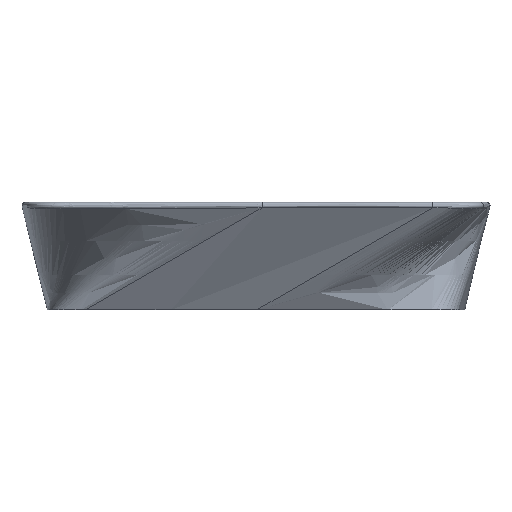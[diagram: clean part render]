
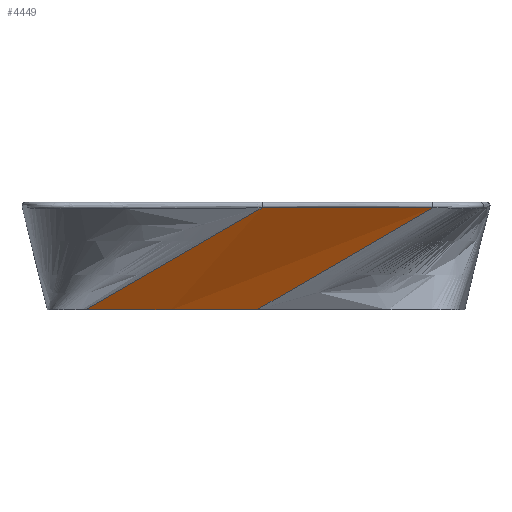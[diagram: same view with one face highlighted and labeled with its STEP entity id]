
A CAD part, front view. The second image highlights one B-rep face of the part: STEP entity #4449.
In plain terms, the highlighted free-form (B-spline) face has degree [3, 1] with [12, 2] control points.
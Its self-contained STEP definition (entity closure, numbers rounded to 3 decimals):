
#42 = CARTESIAN_POINT ( 'NONE',  ( 8.115, -286.954, 61.185 ) ) ;
#158 = CARTESIAN_POINT ( 'NONE',  ( -117.515, -200.091, -76.381 ) ) ;
#178 = B_SPLINE_CURVE_WITH_KNOTS ( 'NONE', 3,
 ( #2433, #10532, #3336, #9664, #4257, #10579, #5153 ),
 .UNSPECIFIED., .F., .F.,
 ( 4, 3, 4 ),
 ( 0., 0., 0. ),
 .UNSPECIFIED. ) ;
#771 = CARTESIAN_POINT ( 'NONE',  ( -225.473, -193.968, -76.381 ) ) ;
#956 = CARTESIAN_POINT ( 'NONE',  ( 8.114, -286.953, 61.184 ) ) ;
#1065 = CARTESIAN_POINT ( 'NONE',  ( -63.884, -201.64, -76.381 ) ) ;
#1185 = CARTESIAN_POINT ( 'NONE',  ( -229.444, -193.881, -76. ) ) ;
#1501 = VERTEX_POINT ( 'NONE', #1776 ) ;
#1776 = CARTESIAN_POINT ( 'NONE',  ( 1.277, -202.414, -76. ) ) ;
#1818 = EDGE_CURVE ( 'NONE', #5347, #2817, #11644, .T. ) ;
#1821 = CARTESIAN_POINT ( 'NONE',  ( 8.115, -286.955, 61.187 ) ) ;
#1825 = VECTOR ( 'NONE', #10907, 1000. ) ;
#1859 = CARTESIAN_POINT ( 'NONE',  ( 8.113, -286.953, 61.184 ) ) ;
#1926 = ORIENTED_EDGE ( 'NONE', *, *, #9376, .T. ) ;
#1974 = CARTESIAN_POINT ( 'NONE',  ( -35.646, -202.108, -76.381 ) ) ;
#2178 = EDGE_CURVE ( 'NONE', #1501, #3606, #2633, .T. ) ;
#2363 = CARTESIAN_POINT ( 'NONE',  ( 8.112, -286.953, 61.183 ) ) ;
#2383 = CARTESIAN_POINT ( 'NONE',  ( 237.894, -280.988, 61.249 ) ) ;
#2433 = CARTESIAN_POINT ( 'NONE',  ( 8.119, -286.955, 61.187 ) ) ;
#2478 = ORIENTED_EDGE ( 'NONE', *, *, #8859, .T. ) ;
#2633 = B_SPLINE_CURVE_WITH_KNOTS ( 'NONE', 3,
 ( #4945, #9459, #4126, #10446 ),
 .UNSPECIFIED., .F., .F.,
 ( 4, 4 ),
 ( 0.003, 0.983 ),
 .UNSPECIFIED. ) ;
#2817 = VERTEX_POINT ( 'NONE', #2363 ) ;
#2848 = CARTESIAN_POINT ( 'NONE',  ( 40.184, -288.471, 63.619 ) ) ;
#2886 = CARTESIAN_POINT ( 'NONE',  ( -5.675, -202.193, -76.381 ) ) ;
#3180 = CARTESIAN_POINT ( 'NONE',  ( 1.277, -202.414, -76. ) ) ;
#3282 = CARTESIAN_POINT ( 'NONE',  ( 199.625, -282.809, 61.247 ) ) ;
#3336 = CARTESIAN_POINT ( 'NONE',  ( 8.119, -286.955, 61.187 ) ) ;
#3419 = CARTESIAN_POINT ( 'NONE',  ( -230.103, -193.623, -76.381 ) ) ;
#3606 = VERTEX_POINT ( 'NONE', #10620 ) ;
#3644 = CARTESIAN_POINT ( 'NONE',  ( 8.115, -286.955, 61.187 ) ) ;
#3646 = VERTEX_POINT ( 'NONE', #4174 ) ;
#3668 = CARTESIAN_POINT ( 'NONE',  ( -108.887, -241.114, -6.381 ) ) ;
#3760 = CARTESIAN_POINT ( 'NONE',  ( 54.206, -288.328, 63.619 ) ) ;
#3801 = CARTESIAN_POINT ( 'NONE',  ( -1.109, -202.196, -76.381 ) ) ;
#4126 = CARTESIAN_POINT ( 'NONE',  ( 159.022, -254.797, 15.499 ) ) ;
#4174 = CARTESIAN_POINT ( 'NONE',  ( -229.444, -193.881, -76. ) ) ;
#4202 = CARTESIAN_POINT ( 'NONE',  ( 142.193, -284.898, 61.236 ) ) ;
#4257 = CARTESIAN_POINT ( 'NONE',  ( 8.118, -286.955, 61.187 ) ) ;
#4418 = CARTESIAN_POINT ( 'NONE',  ( 8.115, -286.955, 61.187 ) ) ;
#4449 = ADVANCED_FACE ( 'NONE', ( #7567 ), #6263, .F. ) ;
#4557 = CARTESIAN_POINT ( 'NONE',  ( 8.115, -286.955, 61.187 ) ) ;
#4668 = CARTESIAN_POINT ( 'NONE',  ( 96.262, -287.707, 63.619 ) ) ;
#4704 = CARTESIAN_POINT ( 'NONE',  ( 0.62, -202.196, -76.381 ) ) ;
#4901 = EDGE_CURVE ( 'NONE', #10020, #5347, #178, .T. ) ;
#4945 = CARTESIAN_POINT ( 'NONE',  ( 1.277, -202.414, -76. ) ) ;
#5062 = CARTESIAN_POINT ( 'NONE',  ( 218.762, -281.958, 61.248 ) ) ;
#5102 = CARTESIAN_POINT ( 'NONE',  ( 46.431, -286.922, 61.204 ) ) ;
#5153 = CARTESIAN_POINT ( 'NONE',  ( 8.115, -286.955, 61.187 ) ) ;
#5281 = CARTESIAN_POINT ( 'NONE',  ( 12.33, -288.605, 63.619 ) ) ;
#5347 = VERTEX_POINT ( 'NONE', #4418 ) ;
#5462 = CARTESIAN_POINT ( 'NONE',  ( 8.115, -286.954, 61.186 ) ) ;
#5575 = CARTESIAN_POINT ( 'NONE',  ( 124.311, -287.038, 63.619 ) ) ;
#5668 = CARTESIAN_POINT ( 'NONE',  ( 8.119, -286.955, 61.187 ) ) ;
#5981 = CARTESIAN_POINT ( 'NONE',  ( -220.843, -194.303, -76.381 ) ) ;
#6192 = CARTESIAN_POINT ( 'NONE',  ( 16.941, -288.594, 63.619 ) ) ;
#6263 =( BOUNDED_SURFACE ( )  B_SPLINE_SURFACE ( 3, 1, ( 
 ( #5281, #3419 ),
 ( #6192, #771 ),
 ( #7104, #5981 ),
 ( #2848, #9172 ),
 ( #3760, #10079 ),
 ( #4668, #10996 ),
 ( #5575, #158 ),
 ( #6487, #1065 ),
 ( #7396, #1974 ),
 ( #8299, #2886 ),
 ( #9211, #3801 ),
 ( #10117, #4704 ) ),
 .UNSPECIFIED., .F., .F., .T. ) 
 B_SPLINE_SURFACE_WITH_KNOTS ( ( 4, 2, 2, 2, 1, 1, 4 ),
 ( 2, 2 ),
 ( 1768.098, 1782.029, 1824.392, 1909.118, 1985.335, 1993.844, 1999.034 ),
 ( 0., 298.658 ),
 .UNSPECIFIED. ) 
 GEOMETRIC_REPRESENTATION_ITEM ( )  RATIONAL_B_SPLINE_SURFACE ( (
 ( 1., 1.),
 ( 1., 1.),
 ( 1., 1.),
 ( 1., 1.),
 ( 1., 1.),
 ( 1., 1.),
 ( 1., 1.),
 ( 1., 1.),
 ( 1., 1.),
 ( 1., 1.),
 ( 1., 1.),
 ( 1., 1.) ) ) 
 REPRESENTATION_ITEM ( '' )  SURFACE ( )  );
#6376 = CARTESIAN_POINT ( 'NONE',  ( 8.114, -286.954, 61.185 ) ) ;
#6487 = CARTESIAN_POINT ( 'NONE',  ( 177.509, -285.299, 63.619 ) ) ;
#6498 = ORIENTED_EDGE ( 'NONE', *, *, #1818, .T. ) ;
#6636 = ORIENTED_EDGE ( 'NONE', *, *, #2178, .T. ) ;
#6637 = LINE ( 'NONE', #3668, #1825 ) ;
#6744 = CARTESIAN_POINT ( 'NONE',  ( -152.678, -199.593, -76. ) ) ;
#7104 = CARTESIAN_POINT ( 'NONE',  ( 21.553, -288.575, 63.619 ) ) ;
#7283 = CARTESIAN_POINT ( 'NONE',  ( 8.113, -286.953, 61.184 ) ) ;
#7292 = B_SPLINE_CURVE_WITH_KNOTS ( 'NONE', 3,
 ( #1185, #6744, #8602, #3180 ),
 .UNSPECIFIED., .F., .F.,
 ( 4, 4 ),
 ( 0.924, 1.154 ),
 .UNSPECIFIED. ) ;
#7396 = CARTESIAN_POINT ( 'NONE',  ( 205.68, -284.151, 63.619 ) ) ;
#7567 = FACE_OUTER_BOUND ( 'NONE', #10282, .T. ) ;
#8146 = CARTESIAN_POINT ( 'NONE',  ( 8.115, -286.955, 61.187 ) ) ;
#8189 = CARTESIAN_POINT ( 'NONE',  ( 8.112, -286.953, 61.183 ) ) ;
#8299 = CARTESIAN_POINT ( 'NONE',  ( 235.11, -282.696, 63.619 ) ) ;
#8457 = ORIENTED_EDGE ( 'NONE', *, *, #4901, .T. ) ;
#8602 = CARTESIAN_POINT ( 'NONE',  ( -75.701, -202.441, -76. ) ) ;
#8859 = EDGE_CURVE ( 'NONE', #3646, #1501, #7292, .T. ) ;
#9172 = CARTESIAN_POINT ( 'NONE',  ( -202.126, -195.615, -76.381 ) ) ;
#9211 = CARTESIAN_POINT ( 'NONE',  ( 240.083, -282.443, 63.619 ) ) ;
#9376 = EDGE_CURVE ( 'NONE', #2817, #3646, #6637, .T. ) ;
#9459 = CARTESIAN_POINT ( 'NONE',  ( 80.149, -228.605, -30.25 ) ) ;
#9538 = ORIENTED_EDGE ( 'NONE', *, *, #11593, .T. ) ;
#9614 = CARTESIAN_POINT ( 'NONE',  ( 161.34, -284.28, 61.24 ) ) ;
#9664 = CARTESIAN_POINT ( 'NONE',  ( 8.119, -286.955, 61.187 ) ) ;
#9965 = CARTESIAN_POINT ( 'NONE',  ( 8.115, -286.955, 61.187 ) ) ;
#10020 = VERTEX_POINT ( 'NONE', #5668 ) ;
#10079 = CARTESIAN_POINT ( 'NONE',  ( -188.033, -196.506, -76.381 ) ) ;
#10093 = B_SPLINE_CURVE_WITH_KNOTS ( 'NONE', 3,
 ( #2383, #5062, #3282, #9614, #4202, #10519, #5102, #11433 ),
 .UNSPECIFIED., .F., .F.,
 ( 4, 2, 2, 4 ),
 ( 0., 0.057, 0.115, 0.23 ),
 .UNSPECIFIED. ) ;
#10117 = CARTESIAN_POINT ( 'NONE',  ( 241.981, -282.345, 63.619 ) ) ;
#10282 = EDGE_LOOP ( 'NONE', ( #6636, #9538, #8457, #6498, #1926, #2478 ) ) ;
#10446 = CARTESIAN_POINT ( 'NONE',  ( 237.894, -280.988, 61.249 ) ) ;
#10519 = CARTESIAN_POINT ( 'NONE',  ( 84.744, -286.396, 61.22 ) ) ;
#10532 = CARTESIAN_POINT ( 'NONE',  ( 8.119, -286.955, 61.187 ) ) ;
#10579 = CARTESIAN_POINT ( 'NONE',  ( 8.116, -286.955, 61.187 ) ) ;
#10620 = CARTESIAN_POINT ( 'NONE',  ( 237.894, -280.988, 61.249 ) ) ;
#10885 = CARTESIAN_POINT ( 'NONE',  ( 8.115, -286.954, 61.186 ) ) ;
#10907 = DIRECTION ( 'NONE',  ( -0.82, 0.321, -0.474 ) ) ;
#10996 = CARTESIAN_POINT ( 'NONE',  ( -145.735, -198.889, -76.381 ) ) ;
#11433 = CARTESIAN_POINT ( 'NONE',  ( 8.119, -286.955, 61.187 ) ) ;
#11593 = EDGE_CURVE ( 'NONE', #3606, #10020, #10093, .T. ) ;
#11644 = B_SPLINE_CURVE_WITH_KNOTS ( 'NONE', 3,
 ( #8146, #1821, #3644, #9965, #4557, #10885, #5462, #42, #6376, #956, #7283, #1859, #8189 ),
 .UNSPECIFIED., .F., .F.,
 ( 4, 3, 3, 3, 4 ),
 ( 0., 0., 0., 0., 0. ),
 .UNSPECIFIED. ) ;
